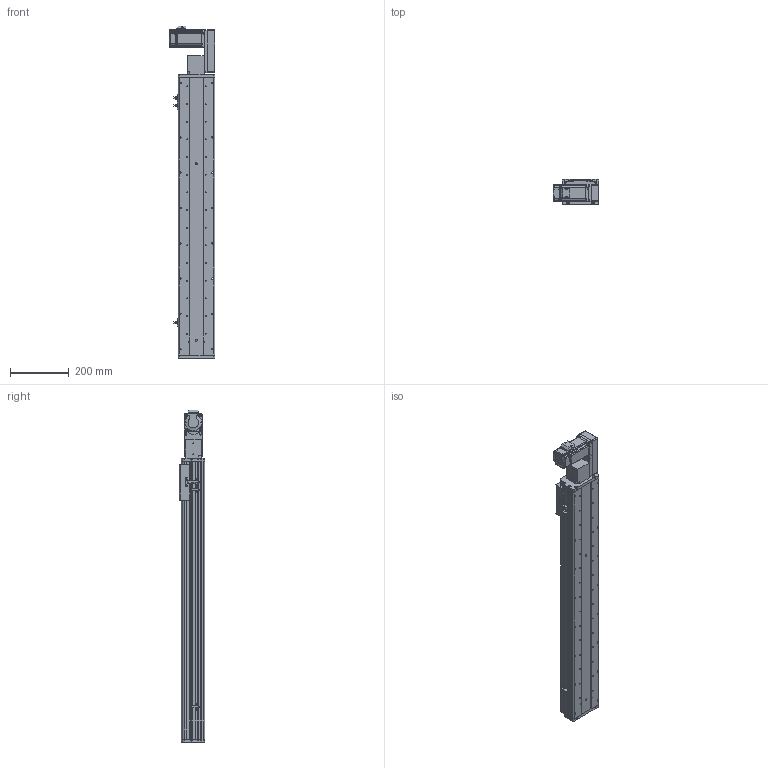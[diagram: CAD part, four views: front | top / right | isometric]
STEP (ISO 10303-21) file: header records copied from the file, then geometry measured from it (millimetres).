
FILE_DESCRIPTION (( 'STEP AP214' ), '1' );
FILE_NAME ('KSD125B-S750-MLB-CM.STEP', '2017-10-21T01:43:53', ( '微软用户' ), ( '微软中国' ), 'SwSTEP 2.0', 'SolidWorks 2014', '' );
FILE_SCHEMA (( 'AUTOMOTIVE_DESIGN' ));
Length unit declared in the file: millimetre
Products named in the file (17): KSD125模组750行程同步带-防尘盖; 125模组750行程同步带-底板; MHMD042G1CA_2_03; KSD125模组同步带-防撞垫2; 覜茼え68遵圉猾敕; U倰嫖萇假蚾璃; U倰嫖萇EEㄜSX672; KSD125模组同步带-防撞垫1; 前端板-125宽模组同步带; 125模组同步带-尾端板1; KSD125模组同步带-滑动座1; KSD125B-S750-MLB-CM; 悵誘欶奻狟殏; HTPA30S3M150_A_H6_a佪裝蚚; HTPA30S3M150_A_H6_a萇儂蚚; 100宽马达安装板连板上下折丝杆同步带; 100宽马达安装板同步带左
Assembly tree (20 placements, depth 2):
  KSD125B-S750-MLB-CM
    KSD125模组同步带-滑动座1
    125模组同步带-尾端板1
    前端板-125宽模组同步带
    KSD125模组同步带-防撞垫1
    U倰嫖萇EEㄜSX672  x3
    U倰嫖萇假蚾璃  x3
    覜茼え68遵圉猾敕
    KSD125模组同步带-防撞垫2
    MHMD042G1CA_2_03
    125模组750行程同步带-底板
    KSD125模组750行程同步带-防尘盖
    100宽马达安装板同步带左
    100宽马达安装板连板上下折丝杆同步带
    HTPA30S3M150_A_H6_a萇儂蚚
    HTPA30S3M150_A_H6_a佪裝蚚
    悵誘欶奻狟殏
Bounding box: 155 x 86 x 1128 mm (x, y, z)
Volume: 3259074.6 mm3; surface area: 1109836.1 mm2
Topology: 19 solids, 22 shells, 2275 faces, 6589 edges, 4354 vertices
Faces by surface type: cylinder 1424, plane 724, cone 105, bspline 22
Entity records: 80843 total; most frequent: CARTESIAN_POINT 15963, DIRECTION 12570, ORIENTED_EDGE 11698, EDGE_CURVE 5927, AXIS2_PLACEMENT_3D 4857, VERTEX_POINT 3946, VECTOR 2856, LINE 2856
